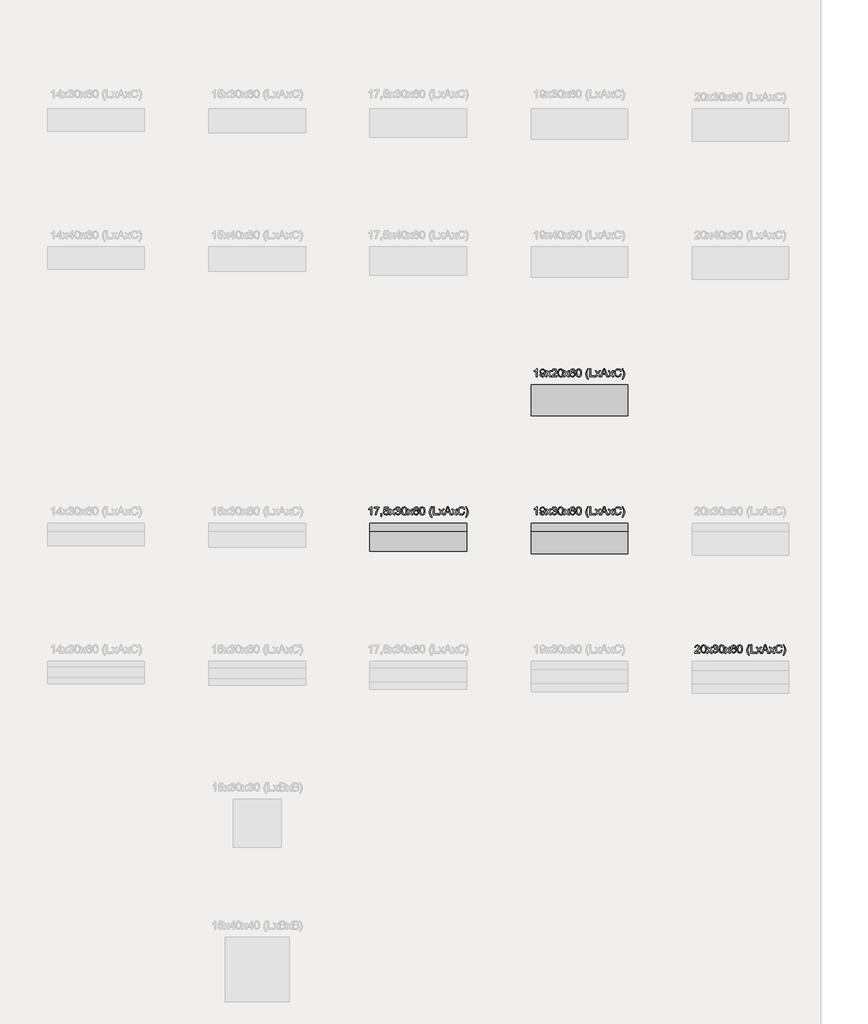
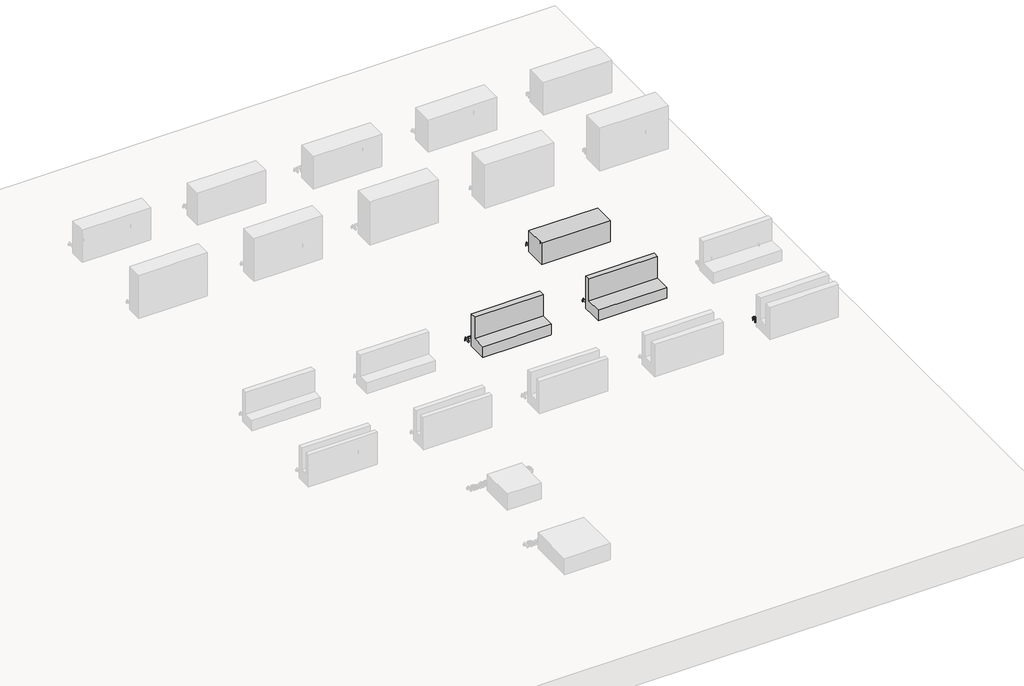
# One storey, part 10 of 26: 7 proxies.
"""IFC4 building model written with IfcOpenShell, lengths in millimetres."""

from ifc_helpers import new_model, si_unit, origin, origin_with_axes, place, context, project, spatial, polyline, outline, extrude, transform, mapped, element, save
from components import generic_models_8f744a5b, generic_models_ec5b52a0, generic_models_67e4d045

model = new_model("IFC4")

# Units and contexts
model_context = context("Model", 3, world=origin())
ifc_project = project(units=[si_unit("LENGTHUNIT", "METRE", prefix="MILLI")], contexts=[model_context])

# Site, building, storey
site = spatial("IfcSite", under=ifc_project)
building = spatial("IfcBuilding", under=site)
storey = spatial("IfcBuildingStorey", under=building, Name="Catálogo Celucon", Elevation=0.0)

# Proxies
placement = place(None, origin())
element("IfcBuildingElementProxy", 1, Name="Dimensões", ObjectType="Dimensões", at=placement, inside=storey, context=model_context, shape_type="SweptSolid", body=[
    extrude(outline(polyline([(-4758.0265226, -313.9617265), (-4764.305042, -313.9617265), (-4764.305042, -274.8190822), (-4770.2524676, -279.0558565), (-4776.8620808, -282.225773), (-4776.8620808, -276.2906101), (-4767.6588995, -270.416761), (-4762.0732246, -263.7335714), (-4758.0265226, -263.7335714), (-4758.0265226, -313.9617265)])), origin_with_axes(), (0.0, 0.0, 1.0), 20.0),
    extrude(outline(polyline([(-4742.3302242, -301.4046877), (-4736.0517048, -300.6198728), (-4733.2312761, -306.6102179), (-4727.8847245, -308.468022), (-4722.8018216, -307.2724055), (-4719.3559936, -304.0779635), (-4717.3019857, -298.6210473), (-4716.3945435, -291.3369838), (-4721.4529209, -294.8686509), (-4728.3384456, -296.6957981), (-4738.8292138, -292.2321633), (-4743.1150391, -280.4722022), (-4738.6207474, -268.3320963), (-4727.357427, -263.7335714), (-4718.4117631, -266.3577963), (-4712.255871, -273.8380635), (-4710.1528123, -287.8911557), (-4712.2497397, -303.1398644), (-4718.4853395, -311.77896), (-4728.1790301, -314.7465414), (-4737.8298011, -311.2455311), (-4742.3302242, -301.4046877)]), holes=[polyline([(-4716.4313317, -280.3250494), (-4719.1413957, -272.7957312), (-4726.3396201, -270.0120908), (-4733.8934637, -273.010329), (-4736.8365197, -280.7787705), (-4734.0528793, -287.7378716), (-4726.5112984, -290.4172788), (-4719.2701544, -287.7378716), (-4716.4313317, -280.3250494)])]), origin_with_axes(), (0.0, 0.0, 1.0), 20.0),
    extrude(outline(polyline([(-4707.0135526, -313.9617265), (-4693.5981225, -295.4204739), (-4706.2287377, -277.0754251), (-4698.6748941, -277.0754251), (-4692.5803157, -285.904593), (-4689.7353616, -290.0739222), (-4687.2705522, -286.6648824), (-4680.3298452, -277.0754251), (-4672.7760016, -277.0754251), (-4686.0442789, -295.4204739), (-4673.2665109, -313.9617265), (-4680.8203546, -313.9617265), (-4688.5090883, -302.814902), (-4689.9193026, -300.7792883), (-4699.459709, -313.9617265), (-4707.0135526, -313.9617265)])), origin_with_axes(), (0.0, 0.0, 1.0), 20.0),
    extrude(outline(polyline([(-4637.1650245, -307.6832071), (-4637.1650245, -313.9617265), (-4670.1272512, -313.9617265), (-4669.4528009, -309.6329816), (-4665.6390909, -302.9681862), (-4657.7786789, -295.690254), (-4646.9384228, -285.2301426), (-4644.2283588, -278.1177574), (-4646.7851386, -272.3604042), (-4653.4621969, -270.0120908), (-4660.4212979, -272.3052219), (-4663.0639169, -278.6450549), (-4669.3424363, -277.86024), (-4664.5293135, -267.3510777), (-4653.3273068, -263.7335714), (-4642.0885118, -267.7557479), (-4637.9498394, -277.7376127), (-4639.0657481, -283.6911696), (-4642.7752249, -289.8470617), (-4651.7699397, -298.449369), (-4658.9926895, -304.4887651), (-4661.8253809, -307.6832071), (-4637.1650245, -307.6832071)])), origin_with_axes(), (0.0, 0.0, 1.0), 20.0),
    extrude(outline(polyline([(-4630.8865051, -289.2523191), (-4629.0409637, -274.8006881), (-4623.559522, -266.4681609), (-4614.4053917, -263.7335714), (-4607.0722773, -265.3522522), (-4602.0077685, -270.0182221), (-4599.0647125, -277.4494384), (-4597.9242783, -289.2523191), (-4599.7514256, -303.6426365), (-4605.2144732, -311.9935578), (-4614.4053917, -314.7465414), (-4625.8833099, -309.9640754), (-4629.6357063, -301.469067), (-4630.8865051, -289.2523191)]), holes=[polyline([(-4624.6079857, -289.2400564), (-4621.6649297, -304.8321216), (-4614.4053917, -308.468022), (-4607.1458537, -304.8198589), (-4604.2027977, -289.2400564), (-4607.0477518, -273.8258008), (-4614.4789681, -270.0120908), (-4621.5668279, -273.3720797), (-4624.6079857, -289.2400564)])]), origin_with_axes(), (0.0, 0.0, 1.0), 20.0),
    extrude(outline(polyline([(-4594.7850186, -313.9617265), (-4581.3695885, -295.4204739), (-4594.0002037, -277.0754251), (-4586.4463601, -277.0754251), (-4580.3517817, -285.904593), (-4577.5068276, -290.0739222), (-4575.0420182, -286.6648824), (-4568.1013112, -277.0754251), (-4560.5474676, -277.0754251), (-4573.8157449, -295.4204739), (-4561.0379769, -313.9617265), (-4568.5918206, -313.9617265), (-4576.2805543, -302.814902), (-4577.6907686, -300.7792883), (-4587.231175, -313.9617265), (-4594.7850186, -313.9617265)])), origin_with_axes(), (0.0, 0.0, 1.0), 20.0),
    extrude(outline(polyline([(-4524.9364905, -277.0754251), (-4531.2150099, -277.86024), (-4533.5939801, -272.6240529), (-4539.8847622, -270.0120908), (-4545.5501449, -271.5326697), (-4549.8359702, -277.240972), (-4551.6201979, -288.430716), (-4546.0835738, -283.4213895), (-4539.2225746, -281.7843146), (-4528.5539968, -286.2602122), (-4524.1516755, -297.8239696), (-4526.2240775, -306.4875906), (-4531.9262484, -312.6189572), (-4540.1545423, -314.7465414), (-4552.9507044, -309.1056841), (-4556.661714, -301.6376796), (-4557.8987172, -290.5153806), (-4556.5252911, -278.0104585), (-4552.4050128, -269.4602678), (-4546.7794839, -265.1652455), (-4539.4923547, -263.7335714), (-4529.5718036, -267.2775013), (-4524.9364905, -277.0754251)]), holes=[polyline([(-4551.6201979, -297.7258677), (-4550.167064, -303.1643899), (-4546.304303, -307.11299), (-4540.6450517, -308.468022), (-4533.2444922, -305.6598561), (-4530.4301949, -298.0324361), (-4533.207704, -290.7299785), (-4540.9025691, -288.062834), (-4548.4993323, -290.7299785), (-4551.6201979, -297.7258677)])]), origin_with_axes(), (0.0, 0.0, 1.0), 20.0),
    extrude(outline(polyline([(-4518.6579711, -289.2523191), (-4516.8124297, -274.8006881), (-4511.330988, -266.4681609), (-4502.1768577, -263.7335714), (-4494.8437433, -265.3522522), (-4489.7792345, -270.0182221), (-4486.8361785, -277.4494384), (-4485.6957443, -289.2523191), (-4487.5228916, -303.6426365), (-4492.9859392, -311.9935578), (-4502.1768577, -314.7465414), (-4513.654776, -309.9640754), (-4517.4071723, -301.469067), (-4518.6579711, -289.2523191)]), holes=[polyline([(-4512.3794517, -289.2400564), (-4509.4363957, -304.8321216), (-4502.1768577, -308.468022), (-4494.9173197, -304.8198589), (-4491.9742637, -289.2400564), (-4494.8192178, -273.8258008), (-4502.2504341, -270.0120908), (-4509.3382939, -273.3720797), (-4512.3794517, -289.2400564)])]), origin_with_axes(), (0.0, 0.0, 1.0), 20.0),
    extrude(outline(polyline([(-4446.4549982, -328.0883951), (-4455.3700052, -313.3608525), (-4459.0120369, -295.874195), (-4456.2897102, -280.6070922), (-4446.4549982, -263.7335714), (-4441.7461086, -263.7335714), (-4447.6199578, -273.678648), (-4451.151625, -283.3171563), (-4452.7335176, -295.9109832), (-4449.9866653, -312.0058205), (-4441.7461086, -328.0883951), (-4446.4549982, -328.0883951)])), origin_with_axes(), (0.0, 0.0, 1.0), 20.0),
    extrude(outline(polyline([(-4434.6827743, -313.9617265), (-4434.6827743, -263.7335714), (-4428.4042549, -263.7335714), (-4428.4042549, -307.6832071), (-4403.2901774, -307.6832071), (-4403.2901774, -313.9617265), (-4434.6827743, -313.9617265)])), origin_with_axes(), (0.0, 0.0, 1.0), 20.0),
    extrude(outline(polyline([(-4366.7594953, -313.9617265), (-4346.7099265, -263.7335714), (-4341.3633749, -263.7335714), (-4321.3138061, -313.9617265), (-4327.9479448, -313.9617265), (-4333.6991666, -298.265428), (-4354.3863975, -298.265428), (-4360.1253566, -313.9617265), (-4366.7594953, -313.9617265)]), holes=[polyline([(-4352.0810037, -291.9869086), (-4335.9922977, -291.9869086), (-4340.5172463, -279.6383363), (-4344.0366507, -270.0120908), (-4347.1636477, -278.5592158), (-4352.0810037, -291.9869086)])]), origin_with_axes(), (0.0, 0.0, 1.0), 20.0),
    extrude(outline(polyline([(-4400.9357326, -313.9617265), (-4387.5203025, -295.4204739), (-4400.1509177, -277.0754251), (-4392.5970741, -277.0754251), (-4386.5024957, -285.904593), (-4383.6575416, -290.0739222), (-4381.1927322, -286.6648824), (-4374.2520252, -277.0754251), (-4366.6981816, -277.0754251), (-4379.9664589, -295.4204739), (-4367.1886909, -313.9617265), (-4374.7425346, -313.9617265), (-4382.4312683, -302.814902), (-4383.8414826, -300.7792883), (-4393.381889, -313.9617265), (-4400.9357326, -313.9617265)])), origin_with_axes(), (0.0, 0.0, 1.0), 20.0),
    extrude(outline(polyline([(-4319.3149806, -313.9617265), (-4305.8995505, -295.4204739), (-4318.5301657, -277.0754251), (-4310.9763221, -277.0754251), (-4304.8817437, -285.904593), (-4302.0367896, -290.0739222), (-4299.5719802, -286.6648824), (-4292.6312733, -277.0754251), (-4285.0774296, -277.0754251), (-4298.3457069, -295.4204739), (-4285.5679389, -313.9617265), (-4293.1217826, -313.9617265), (-4300.8105163, -302.814902), (-4302.2207306, -300.7792883), (-4311.761137, -313.9617265), (-4319.3149806, -313.9617265)])), origin_with_axes(), (0.0, 0.0, 1.0), 20.0),
    extrude(outline(polyline([(-4243.972748, -296.107187), (-4237.6942286, -297.7258677), (-4245.1377077, -310.3871397), (-4258.2833576, -314.7465414), (-4271.3492998, -311.4478662), (-4279.0135081, -301.895197), (-4281.6438643, -288.4675042), (-4278.6701515, -274.8190822), (-4270.214997, -265.9715202), (-4258.1484676, -262.9487565), (-4245.5730347, -266.8605683), (-4238.4790436, -277.8725027), (-4244.7575629, -279.3685562), (-4249.9079109, -271.6491656), (-4258.3937222, -269.2272758), (-4268.2161715, -271.9128144), (-4273.7650583, -279.1233015), (-4275.3653449, -288.4552415), (-4273.4707527, -299.2709721), (-4267.572378, -306.1810223), (-4258.908757, -308.468022), (-4249.3009056, -305.3532878), (-4243.972748, -296.107187)])), origin_with_axes(), (0.0, 0.0, 1.0), 20.0),
    extrude(outline(polyline([(-4228.2764496, -328.0883951), (-4232.9853391, -328.0883951), (-4224.7447824, -312.0058205), (-4221.9979302, -295.9109832), (-4223.5798228, -283.4275209), (-4227.0747017, -273.7767498), (-4232.9853391, -263.7335714), (-4228.2764496, -263.7335714), (-4218.4417376, -280.6070922), (-4215.7194108, -295.874195), (-4219.3798366, -313.3608525), (-4228.2764496, -328.0883951)])), origin_with_axes(), (0.0, 0.0, 1.0), 20.0),
])
element("IfcBuildingElementProxy", 2, Name="Dimensões", ObjectType="Dimensões", at=placement, inside=storey, context=model_context, shape_type="SweptSolid", body=[
    extrude(outline(polyline([(-5787.0646748, -1171.1045836), (-5793.3431942, -1171.1045836), (-5793.3431942, -1131.9619393), (-5799.2906197, -1136.1987136), (-5805.9002329, -1139.3686301), (-5805.9002329, -1133.4334673), (-5796.6970517, -1127.5596181), (-5791.1113767, -1120.8764285), (-5787.0646748, -1120.8764285), (-5787.0646748, -1171.1045836)])), origin_with_axes(), (0.0, 0.0, 1.0), 20.0),
    extrude(outline(polyline([(-5772.1531912, -1127.9397628), (-5772.1531912, -1121.6612434), (-5739.1909645, -1121.6612434), (-5739.1909645, -1126.738015), (-5748.5412985, -1140.2454156), (-5755.6966033, -1157.4561616), (-5758.0265226, -1171.1045836), (-5764.305042, -1171.1045836), (-5761.8095758, -1156.9411268), (-5754.9608393, -1140.9321286), (-5745.4694838, -1127.9397628), (-5772.1531912, -1127.9397628)])), origin_with_axes(), (0.0, 0.0, 1.0), 20.0),
    extrude(outline(polyline([(-5730.5580003, -1171.1045836), (-5730.5580003, -1164.8260642), (-5724.2794809, -1164.8260642), (-5724.2794809, -1171.1045836), (-5725.4076524, -1177.5241244), (-5728.9883705, -1181.3071776), (-5730.5580003, -1178.9527328), (-5728.2526065, -1176.2426688), (-5727.4310034, -1171.1045836), (-5730.5580003, -1171.1045836)])), origin_with_axes(), (0.0, 0.0, 1.0), 20.0),
    extrude(outline(polyline([(-5714.0768869, -1157.7627299), (-5707.7983675, -1156.977915), (-5704.6345824, -1163.4465067), (-5698.0740201, -1165.6108791), (-5690.2013454, -1162.6003781), (-5687.3931795, -1154.6112075), (-5690.0235358, -1147.1554657), (-5697.9759183, -1144.4208762), (-5703.4880168, -1145.5122595), (-5707.0135526, -1148.3449508), (-5713.292072, -1147.5601359), (-5707.7983675, -1121.6612434), (-5683.4691049, -1121.6612434), (-5683.4691049, -1127.9397628), (-5702.721596, -1127.9397628), (-5705.4071346, -1141.7721258), (-5696.2223474, -1138.1423568), (-5685.4863245, -1142.6427799), (-5681.1146602, -1154.2188), (-5685.0509975, -1165.8683965), (-5690.7041175, -1170.384148), (-5698.0985456, -1171.8893985), (-5709.177925, -1168.0205062), (-5714.0768869, -1157.7627299)])), origin_with_axes(), (0.0, 0.0, 1.0), 20.0),
    extrude(outline(polyline([(-5677.9754005, -1171.1045836), (-5664.5599704, -1152.563331), (-5677.1905855, -1134.2182822), (-5669.6367419, -1134.2182822), (-5663.5421635, -1143.0474501), (-5660.6972094, -1147.2167794), (-5658.2324001, -1143.8077396), (-5651.2916931, -1134.2182822), (-5643.7378494, -1134.2182822), (-5657.0061267, -1152.563331), (-5644.2283588, -1171.1045836), (-5651.7822024, -1171.1045836), (-5659.4709361, -1159.9577591), (-5660.8811504, -1157.9221454), (-5670.4215568, -1171.1045836), (-5677.9754005, -1171.1045836)])), origin_with_axes(), (0.0, 0.0, 1.0), 20.0),
    extrude(outline(polyline([(-5640.3042842, -1157.7627299), (-5634.0257648, -1156.977915), (-5630.5615427, -1163.5875282), (-5624.0806882, -1165.6108791), (-5616.4532681, -1162.8272387), (-5613.6205768, -1155.9355827), (-5616.4287427, -1149.4424654), (-5623.5656534, -1146.8734228), (-5627.9679746, -1147.5601359), (-5627.2689988, -1141.2816165), (-5619.1388067, -1139.5525711), (-5615.9750215, -1134.0098158), (-5618.2681526, -1129.0985911), (-5624.17879, -1127.1549479), (-5630.1630038, -1129.1169852), (-5633.2409499, -1135.0030971), (-5639.5194692, -1134.2182822), (-5634.381384, -1124.3713075), (-5624.3995192, -1120.8764285), (-5616.8272815, -1122.5993425), (-5611.5297808, -1127.3082321), (-5609.6965022, -1133.6419338), (-5611.4378103, -1139.4299438), (-5616.5881582, -1143.5870104), (-5609.7455531, -1147.878967), (-5607.3420574, -1156.0459473), (-5612.1490488, -1167.2786108), (-5624.3014174, -1171.8893985), (-5635.3133518, -1167.9530612), (-5640.3042842, -1157.7627299)])), origin_with_axes(), (0.0, 0.0, 1.0), 20.0),
    extrude(outline(polyline([(-5601.8483529, -1146.3951763), (-5600.0028116, -1131.9435452), (-5594.5213699, -1123.611018), (-5585.3672395, -1120.8764285), (-5578.0341251, -1122.4951093), (-5572.9696163, -1127.1610793), (-5570.0265603, -1134.5922956), (-5568.8861262, -1146.3951763), (-5570.7132734, -1160.7854936), (-5576.176321, -1169.1364149), (-5585.3672395, -1171.8893985), (-5596.8451578, -1167.1069326), (-5600.5975541, -1158.6119242), (-5601.8483529, -1146.3951763)]), holes=[polyline([(-5595.5698335, -1146.3829135), (-5592.6267776, -1161.9749788), (-5585.3672395, -1165.6108791), (-5578.1077015, -1161.962716), (-5575.1646455, -1146.3829135), (-5578.0095996, -1130.9686579), (-5585.4408159, -1127.1549479), (-5592.5286757, -1130.5149368), (-5595.5698335, -1146.3829135)])]), origin_with_axes(), (0.0, 0.0, 1.0), 20.0),
    extrude(outline(polyline([(-5565.7468665, -1171.1045836), (-5552.3314364, -1152.563331), (-5564.9620515, -1134.2182822), (-5557.4082079, -1134.2182822), (-5551.3136295, -1143.0474501), (-5548.4686754, -1147.2167794), (-5546.0038661, -1143.8077396), (-5539.0631591, -1134.2182822), (-5531.5093155, -1134.2182822), (-5544.7775927, -1152.563331), (-5531.9998248, -1171.1045836), (-5539.5536684, -1171.1045836), (-5547.2424021, -1159.9577591), (-5548.6526164, -1157.9221454), (-5558.1930228, -1171.1045836), (-5565.7468665, -1171.1045836)])), origin_with_axes(), (0.0, 0.0, 1.0), 20.0),
    extrude(outline(polyline([(-5495.8983383, -1134.2182822), (-5502.1768577, -1135.0030971), (-5504.5558279, -1129.7669101), (-5510.8466101, -1127.1549479), (-5516.5119928, -1128.6755268), (-5520.797818, -1134.3838291), (-5522.5820457, -1145.5735731), (-5517.0454217, -1140.5642466), (-5510.1844225, -1138.9271718), (-5499.5158446, -1143.4030694), (-5495.1135234, -1154.9668267), (-5497.1859253, -1163.6304477), (-5502.8880962, -1169.7618143), (-5511.1163902, -1171.8893985), (-5523.9125523, -1166.2485413), (-5527.6235619, -1158.7805368), (-5528.8605651, -1147.6582378), (-5527.487139, -1135.1533156), (-5523.3668606, -1126.6031249), (-5517.7413318, -1122.3081026), (-5510.4542026, -1120.8764285), (-5500.5336515, -1124.4203584), (-5495.8983383, -1134.2182822)]), holes=[polyline([(-5522.5820457, -1154.8687249), (-5521.1289118, -1160.307247), (-5517.2661509, -1164.2558471), (-5511.6068995, -1165.6108791), (-5504.20634, -1162.8027132), (-5501.3920428, -1155.1752932), (-5504.1695518, -1147.8728356), (-5511.8644169, -1145.2056911), (-5519.4611801, -1147.8728356), (-5522.5820457, -1154.8687249)])]), origin_with_axes(), (0.0, 0.0, 1.0), 20.0),
    extrude(outline(polyline([(-5489.6198189, -1146.3951763), (-5487.7742776, -1131.9435452), (-5482.2928359, -1123.611018), (-5473.1387056, -1120.8764285), (-5465.8055911, -1122.4951093), (-5460.7410823, -1127.1610793), (-5457.7980264, -1134.5922956), (-5456.6575922, -1146.3951763), (-5458.4847394, -1160.7854936), (-5463.947787, -1169.1364149), (-5473.1387056, -1171.8893985), (-5484.6166238, -1167.1069326), (-5488.3690202, -1158.6119242), (-5489.6198189, -1146.3951763)]), holes=[polyline([(-5483.3412996, -1146.3829135), (-5480.3982436, -1161.9749788), (-5473.1387056, -1165.6108791), (-5465.8791675, -1161.962716), (-5462.9361116, -1146.3829135), (-5465.7810656, -1130.9686579), (-5473.212282, -1127.1549479), (-5480.3001417, -1130.5149368), (-5483.3412996, -1146.3829135)])]), origin_with_axes(), (0.0, 0.0, 1.0), 20.0),
    extrude(outline(polyline([(-5417.416846, -1185.2312522), (-5426.331853, -1170.5037097), (-5429.9738848, -1153.0170522), (-5427.251558, -1137.7499494), (-5417.416846, -1120.8764285), (-5412.7079565, -1120.8764285), (-5418.5818057, -1130.8215051), (-5422.1134728, -1140.4600134), (-5423.6953654, -1153.0538404), (-5420.9485132, -1169.1486777), (-5412.7079565, -1185.2312522), (-5417.416846, -1185.2312522)])), origin_with_axes(), (0.0, 0.0, 1.0), 20.0),
    extrude(outline(polyline([(-5405.6446222, -1171.1045836), (-5405.6446222, -1120.8764285), (-5399.3661028, -1120.8764285), (-5399.3661028, -1164.8260642), (-5374.2520252, -1164.8260642), (-5374.2520252, -1171.1045836), (-5405.6446222, -1171.1045836)])), origin_with_axes(), (0.0, 0.0, 1.0), 20.0),
    extrude(outline(polyline([(-5337.7213431, -1171.1045836), (-5317.6717744, -1120.8764285), (-5312.3252227, -1120.8764285), (-5292.275654, -1171.1045836), (-5298.9097926, -1171.1045836), (-5304.6610145, -1155.4082851), (-5325.3482454, -1155.4082851), (-5331.0872045, -1171.1045836), (-5337.7213431, -1171.1045836)]), holes=[polyline([(-5323.0428515, -1149.1297658), (-5306.9541456, -1149.1297658), (-5311.4790941, -1136.7811934), (-5314.9984986, -1127.1549479), (-5318.1254955, -1135.7020729), (-5323.0428515, -1149.1297658)])]), origin_with_axes(), (0.0, 0.0, 1.0), 20.0),
    extrude(outline(polyline([(-5371.8975805, -1171.1045836), (-5358.4821504, -1152.563331), (-5371.1127656, -1134.2182822), (-5363.5589219, -1134.2182822), (-5357.4643435, -1143.0474501), (-5354.6193894, -1147.2167794), (-5352.1545801, -1143.8077396), (-5345.2138731, -1134.2182822), (-5337.6600295, -1134.2182822), (-5350.9283068, -1152.563331), (-5338.1505388, -1171.1045836), (-5345.7043824, -1171.1045836), (-5353.3931161, -1159.9577591), (-5354.8033304, -1157.9221454), (-5364.3437368, -1171.1045836), (-5371.8975805, -1171.1045836)])), origin_with_axes(), (0.0, 0.0, 1.0), 20.0),
    extrude(outline(polyline([(-5290.2768285, -1171.1045836), (-5276.8613984, -1152.563331), (-5289.4920136, -1134.2182822), (-5281.9381699, -1134.2182822), (-5275.8435915, -1143.0474501), (-5272.9986374, -1147.2167794), (-5270.5338281, -1143.8077396), (-5263.5931211, -1134.2182822), (-5256.0392775, -1134.2182822), (-5269.3075548, -1152.563331), (-5256.5297868, -1171.1045836), (-5264.0836304, -1171.1045836), (-5271.7723641, -1159.9577591), (-5273.1825784, -1157.9221454), (-5282.7229848, -1171.1045836), (-5290.2768285, -1171.1045836)])), origin_with_axes(), (0.0, 0.0, 1.0), 20.0),
    extrude(outline(polyline([(-5214.9345959, -1153.2500441), (-5208.6560765, -1154.8687249), (-5216.0995555, -1167.5299969), (-5229.2452055, -1171.8893985), (-5242.3111477, -1168.5907233), (-5249.9753559, -1159.0380542), (-5252.6057122, -1145.6103613), (-5249.6319994, -1131.9619393), (-5241.1768449, -1123.1143773), (-5229.1103154, -1120.0916136), (-5216.5348825, -1124.0034255), (-5209.4408914, -1135.0153599), (-5215.7194108, -1136.5114133), (-5220.8697587, -1128.7920228), (-5229.3555701, -1126.370133), (-5239.1780194, -1129.0556715), (-5244.7269061, -1136.2661587), (-5246.3271928, -1145.5980986), (-5244.4326005, -1156.4138293), (-5238.5342259, -1163.3238794), (-5229.8706049, -1165.6108791), (-5220.2627534, -1162.4961449), (-5214.9345959, -1153.2500441)])), origin_with_axes(), (0.0, 0.0, 1.0), 20.0),
    extrude(outline(polyline([(-5199.2382974, -1185.2312522), (-5203.9471869, -1185.2312522), (-5195.7066303, -1169.1486777), (-5192.959778, -1153.0538404), (-5194.5416706, -1140.570378), (-5198.0365496, -1130.919607), (-5203.9471869, -1120.8764285), (-5199.2382974, -1120.8764285), (-5189.4035854, -1137.7499494), (-5186.6812586, -1153.0170522), (-5190.3416845, -1170.5037097), (-5199.2382974, -1185.2312522)])), origin_with_axes(), (0.0, 0.0, 1.0), 20.0),
])
element("IfcBuildingElementProxy", 3, Name="Dimensões", ObjectType="Dimensões", at=placement, inside=storey, context=model_context, shape_type="SweptSolid", body=[
    extrude(outline(polyline([(-4758.0265226, -1171.1045836), (-4764.305042, -1171.1045836), (-4764.305042, -1131.9619393), (-4770.2524676, -1136.1987136), (-4776.8620808, -1139.3686301), (-4776.8620808, -1133.4334673), (-4767.6588995, -1127.5596181), (-4762.0732246, -1120.8764285), (-4758.0265226, -1120.8764285), (-4758.0265226, -1171.1045836)])), origin_with_axes(), (0.0, 0.0, 1.0), 20.0),
    extrude(outline(polyline([(-4742.3302242, -1158.5475448), (-4736.0517048, -1157.7627299), (-4733.2312761, -1163.7530751), (-4727.8847245, -1165.6108791), (-4722.8018216, -1164.4152627), (-4719.3559936, -1161.2208207), (-4717.3019857, -1155.7639044), (-4716.3945435, -1148.4798409), (-4721.4529209, -1152.011508), (-4728.3384456, -1153.8386553), (-4738.8292138, -1149.3750204), (-4743.1150391, -1137.6150593), (-4738.6207474, -1125.4749535), (-4727.357427, -1120.8764285), (-4718.4117631, -1123.5006534), (-4712.255871, -1130.9809207), (-4710.1528123, -1145.0340129), (-4712.2497397, -1160.2827216), (-4718.4853395, -1168.9218171), (-4728.1790301, -1171.8893985), (-4737.8298011, -1168.3883882), (-4742.3302242, -1158.5475448)]), holes=[polyline([(-4716.4313317, -1137.4679065), (-4719.1413957, -1129.9385883), (-4726.3396201, -1127.1549479), (-4733.8934637, -1130.1531862), (-4736.8365197, -1137.9216276), (-4734.0528793, -1144.8807287), (-4726.5112984, -1147.5601359), (-4719.2701544, -1144.8807287), (-4716.4313317, -1137.4679065)])]), origin_with_axes(), (0.0, 0.0, 1.0), 20.0),
    extrude(outline(polyline([(-4707.0135526, -1171.1045836), (-4693.5981225, -1152.563331), (-4706.2287377, -1134.2182822), (-4698.6748941, -1134.2182822), (-4692.5803157, -1143.0474501), (-4689.7353616, -1147.2167794), (-4687.2705522, -1143.8077396), (-4680.3298452, -1134.2182822), (-4672.7760016, -1134.2182822), (-4686.0442789, -1152.563331), (-4673.2665109, -1171.1045836), (-4680.8203546, -1171.1045836), (-4688.5090883, -1159.9577591), (-4689.9193026, -1157.9221454), (-4699.459709, -1171.1045836), (-4707.0135526, -1171.1045836)])), origin_with_axes(), (0.0, 0.0, 1.0), 20.0),
    extrude(outline(polyline([(-4669.3424363, -1157.7627299), (-4663.0639169, -1156.977915), (-4659.5996948, -1163.5875282), (-4653.1188403, -1165.6108791), (-4645.4914203, -1162.8272387), (-4642.6587289, -1155.9355827), (-4645.4668948, -1149.4424654), (-4652.6038055, -1146.8734228), (-4657.0061267, -1147.5601359), (-4656.3071509, -1141.2816165), (-4648.1769589, -1139.5525711), (-4645.0131737, -1134.0098158), (-4647.3063048, -1129.0985911), (-4653.2169422, -1127.1549479), (-4659.201156, -1129.1169852), (-4662.279102, -1135.0030971), (-4668.5576214, -1134.2182822), (-4663.4195362, -1124.3713075), (-4653.4376714, -1120.8764285), (-4645.8654337, -1122.5993425), (-4640.5679329, -1127.3082321), (-4638.7346543, -1133.6419338), (-4640.4759624, -1139.4299438), (-4645.6263104, -1143.5870104), (-4638.7837052, -1147.878967), (-4636.3802095, -1156.0459473), (-4641.1872009, -1167.2786108), (-4653.3395695, -1171.8893985), (-4664.3515039, -1167.9530612), (-4669.3424363, -1157.7627299)])), origin_with_axes(), (0.0, 0.0, 1.0), 20.0),
    extrude(outline(polyline([(-4630.8865051, -1146.3951763), (-4629.0409637, -1131.9435452), (-4623.559522, -1123.611018), (-4614.4053917, -1120.8764285), (-4607.0722773, -1122.4951093), (-4602.0077685, -1127.1610793), (-4599.0647125, -1134.5922956), (-4597.9242783, -1146.3951763), (-4599.7514256, -1160.7854936), (-4605.2144732, -1169.1364149), (-4614.4053917, -1171.8893985), (-4625.8833099, -1167.1069326), (-4629.6357063, -1158.6119242), (-4630.8865051, -1146.3951763)]), holes=[polyline([(-4624.6079857, -1146.3829135), (-4621.6649297, -1161.9749788), (-4614.4053917, -1165.6108791), (-4607.1458537, -1161.962716), (-4604.2027977, -1146.3829135), (-4607.0477518, -1130.9686579), (-4614.4789681, -1127.1549479), (-4621.5668279, -1130.5149368), (-4624.6079857, -1146.3829135)])]), origin_with_axes(), (0.0, 0.0, 1.0), 20.0),
    extrude(outline(polyline([(-4594.7850186, -1171.1045836), (-4581.3695885, -1152.563331), (-4594.0002037, -1134.2182822), (-4586.4463601, -1134.2182822), (-4580.3517817, -1143.0474501), (-4577.5068276, -1147.2167794), (-4575.0420182, -1143.8077396), (-4568.1013112, -1134.2182822), (-4560.5474676, -1134.2182822), (-4573.8157449, -1152.563331), (-4561.0379769, -1171.1045836), (-4568.5918206, -1171.1045836), (-4576.2805543, -1159.9577591), (-4577.6907686, -1157.9221454), (-4587.231175, -1171.1045836), (-4594.7850186, -1171.1045836)])), origin_with_axes(), (0.0, 0.0, 1.0), 20.0),
    extrude(outline(polyline([(-4524.9364905, -1134.2182822), (-4531.2150099, -1135.0030971), (-4533.5939801, -1129.7669101), (-4539.8847622, -1127.1549479), (-4545.5501449, -1128.6755268), (-4549.8359702, -1134.3838291), (-4551.6201979, -1145.5735731), (-4546.0835738, -1140.5642466), (-4539.2225746, -1138.9271718), (-4528.5539968, -1143.4030694), (-4524.1516755, -1154.9668267), (-4526.2240775, -1163.6304477), (-4531.9262484, -1169.7618143), (-4540.1545423, -1171.8893985), (-4552.9507044, -1166.2485413), (-4556.661714, -1158.7805368), (-4557.8987172, -1147.6582378), (-4556.5252911, -1135.1533156), (-4552.4050128, -1126.6031249), (-4546.7794839, -1122.3081026), (-4539.4923547, -1120.8764285), (-4529.5718036, -1124.4203584), (-4524.9364905, -1134.2182822)]), holes=[polyline([(-4551.6201979, -1154.8687249), (-4550.167064, -1160.307247), (-4546.304303, -1164.2558471), (-4540.6450517, -1165.6108791), (-4533.2444922, -1162.8027132), (-4530.4301949, -1155.1752932), (-4533.207704, -1147.8728356), (-4540.9025691, -1145.2056911), (-4548.4993323, -1147.8728356), (-4551.6201979, -1154.8687249)])]), origin_with_axes(), (0.0, 0.0, 1.0), 20.0),
    extrude(outline(polyline([(-4518.6579711, -1146.3951763), (-4516.8124297, -1131.9435452), (-4511.330988, -1123.611018), (-4502.1768577, -1120.8764285), (-4494.8437433, -1122.4951093), (-4489.7792345, -1127.1610793), (-4486.8361785, -1134.5922956), (-4485.6957443, -1146.3951763), (-4487.5228916, -1160.7854936), (-4492.9859392, -1169.1364149), (-4502.1768577, -1171.8893985), (-4513.654776, -1167.1069326), (-4517.4071723, -1158.6119242), (-4518.6579711, -1146.3951763)]), holes=[polyline([(-4512.3794517, -1146.3829135), (-4509.4363957, -1161.9749788), (-4502.1768577, -1165.6108791), (-4494.9173197, -1161.962716), (-4491.9742637, -1146.3829135), (-4494.8192178, -1130.9686579), (-4502.2504341, -1127.1549479), (-4509.3382939, -1130.5149368), (-4512.3794517, -1146.3829135)])]), origin_with_axes(), (0.0, 0.0, 1.0), 20.0),
    extrude(outline(polyline([(-4446.4549982, -1185.2312522), (-4455.3700052, -1170.5037097), (-4459.0120369, -1153.0170522), (-4456.2897102, -1137.7499494), (-4446.4549982, -1120.8764285), (-4441.7461086, -1120.8764285), (-4447.6199578, -1130.8215051), (-4451.151625, -1140.4600134), (-4452.7335176, -1153.0538404), (-4449.9866653, -1169.1486777), (-4441.7461086, -1185.2312522), (-4446.4549982, -1185.2312522)])), origin_with_axes(), (0.0, 0.0, 1.0), 20.0),
    extrude(outline(polyline([(-4434.6827743, -1171.1045836), (-4434.6827743, -1120.8764285), (-4428.4042549, -1120.8764285), (-4428.4042549, -1164.8260642), (-4403.2901774, -1164.8260642), (-4403.2901774, -1171.1045836), (-4434.6827743, -1171.1045836)])), origin_with_axes(), (0.0, 0.0, 1.0), 20.0),
    extrude(outline(polyline([(-4366.7594953, -1171.1045836), (-4346.7099265, -1120.8764285), (-4341.3633749, -1120.8764285), (-4321.3138061, -1171.1045836), (-4327.9479448, -1171.1045836), (-4333.6991666, -1155.4082851), (-4354.3863975, -1155.4082851), (-4360.1253566, -1171.1045836), (-4366.7594953, -1171.1045836)]), holes=[polyline([(-4352.0810037, -1149.1297658), (-4335.9922977, -1149.1297658), (-4340.5172463, -1136.7811934), (-4344.0366507, -1127.1549479), (-4347.1636477, -1135.7020729), (-4352.0810037, -1149.1297658)])]), origin_with_axes(), (0.0, 0.0, 1.0), 20.0),
    extrude(outline(polyline([(-4400.9357326, -1171.1045836), (-4387.5203025, -1152.563331), (-4400.1509177, -1134.2182822), (-4392.5970741, -1134.2182822), (-4386.5024957, -1143.0474501), (-4383.6575416, -1147.2167794), (-4381.1927322, -1143.8077396), (-4374.2520252, -1134.2182822), (-4366.6981816, -1134.2182822), (-4379.9664589, -1152.563331), (-4367.1886909, -1171.1045836), (-4374.7425346, -1171.1045836), (-4382.4312683, -1159.9577591), (-4383.8414826, -1157.9221454), (-4393.381889, -1171.1045836), (-4400.9357326, -1171.1045836)])), origin_with_axes(), (0.0, 0.0, 1.0), 20.0),
    extrude(outline(polyline([(-4319.3149806, -1171.1045836), (-4305.8995505, -1152.563331), (-4318.5301657, -1134.2182822), (-4310.9763221, -1134.2182822), (-4304.8817437, -1143.0474501), (-4302.0367896, -1147.2167794), (-4299.5719802, -1143.8077396), (-4292.6312733, -1134.2182822), (-4285.0774296, -1134.2182822), (-4298.3457069, -1152.563331), (-4285.5679389, -1171.1045836), (-4293.1217826, -1171.1045836), (-4300.8105163, -1159.9577591), (-4302.2207306, -1157.9221454), (-4311.761137, -1171.1045836), (-4319.3149806, -1171.1045836)])), origin_with_axes(), (0.0, 0.0, 1.0), 20.0),
    extrude(outline(polyline([(-4243.972748, -1153.2500441), (-4237.6942286, -1154.8687249), (-4245.1377077, -1167.5299969), (-4258.2833576, -1171.8893985), (-4271.3492998, -1168.5907233), (-4279.0135081, -1159.0380542), (-4281.6438643, -1145.6103613), (-4278.6701515, -1131.9619393), (-4270.214997, -1123.1143773), (-4258.1484676, -1120.0916136), (-4245.5730347, -1124.0034255), (-4238.4790436, -1135.0153599), (-4244.7575629, -1136.5114133), (-4249.9079109, -1128.7920228), (-4258.3937222, -1126.370133), (-4268.2161715, -1129.0556715), (-4273.7650583, -1136.2661587), (-4275.3653449, -1145.5980986), (-4273.4707527, -1156.4138293), (-4267.572378, -1163.3238794), (-4258.908757, -1165.6108791), (-4249.3009056, -1162.4961449), (-4243.972748, -1153.2500441)])), origin_with_axes(), (0.0, 0.0, 1.0), 20.0),
    extrude(outline(polyline([(-4228.2764496, -1185.2312522), (-4232.9853391, -1185.2312522), (-4224.7447824, -1169.1486777), (-4221.9979302, -1153.0538404), (-4223.5798228, -1140.570378), (-4227.0747017, -1130.919607), (-4232.9853391, -1120.8764285), (-4228.2764496, -1120.8764285), (-4218.4417376, -1137.7499494), (-4215.7194108, -1153.0170522), (-4219.3798366, -1170.5037097), (-4228.2764496, -1185.2312522)])), origin_with_axes(), (0.0, 0.0, 1.0), 20.0),
])
element("IfcBuildingElementProxy", 4, Name="Dimensões", ObjectType="Dimensões", at=placement, inside=storey, context=model_context, shape_type="SweptSolid", body=[
    extrude(outline(polyline([(-3749.3935585, -2021.9689214), (-3749.3935585, -2028.2474407), (-3782.3557852, -2028.2474407), (-3781.6813349, -2023.9186959), (-3777.8676249, -2017.2539005), (-3770.0072129, -2009.9759683), (-3759.1669568, -1999.5158569), (-3756.4568928, -1992.4034717), (-3759.0136726, -1986.6461185), (-3765.6907308, -1984.2978051), (-3772.6498319, -1986.5909362), (-3775.2924509, -1992.9307692), (-3781.5709703, -1992.1459543), (-3776.7578475, -1981.636792), (-3765.5558408, -1978.0192857), (-3754.3170458, -1982.0414621), (-3750.1783734, -1992.0233269), (-3751.2942821, -1997.9768839), (-3755.0037589, -2004.132776), (-3763.9984737, -2012.7350833), (-3771.2212235, -2018.7744794), (-3774.0539149, -2021.9689214), (-3749.3935585, -2021.9689214)])), origin_with_axes(), (0.0, 0.0, 1.0), 20.0),
    extrude(outline(polyline([(-3743.1150391, -2003.5380334), (-3741.2694977, -1989.0864024), (-3735.788056, -1980.7538752), (-3726.6339257, -1978.0192857), (-3719.3008113, -1979.6379664), (-3714.2363025, -1984.3039364), (-3711.2932465, -1991.7351527), (-3710.1528123, -2003.5380334), (-3711.9799596, -2017.9283508), (-3717.4430072, -2026.2792721), (-3726.6339257, -2029.0322557), (-3738.1118439, -2024.2497897), (-3741.8642403, -2015.7547813), (-3743.1150391, -2003.5380334)]), holes=[polyline([(-3736.8365197, -2003.5257707), (-3733.8934637, -2019.1178359), (-3726.6339257, -2022.7537363), (-3719.3743877, -2019.1055732), (-3716.4313317, -2003.5257707), (-3719.2762858, -1988.1115151), (-3726.7075021, -1984.2978051), (-3733.7953619, -1987.6577939), (-3736.8365197, -2003.5257707)])]), origin_with_axes(), (0.0, 0.0, 1.0), 20.0),
    extrude(outline(polyline([(-3707.0135526, -2028.2474407), (-3693.5981225, -2009.7061882), (-3706.2287377, -1991.3611394), (-3698.6748941, -1991.3611394), (-3692.5803157, -2000.1903072), (-3689.7353616, -2004.3596365), (-3687.2705522, -2000.9505967), (-3680.3298452, -1991.3611394), (-3672.7760016, -1991.3611394), (-3686.0442789, -2009.7061882), (-3673.2665109, -2028.2474407), (-3680.8203546, -2028.2474407), (-3688.5090883, -2017.1006163), (-3689.9193026, -2015.0650026), (-3699.459709, -2028.2474407), (-3707.0135526, -2028.2474407)])), origin_with_axes(), (0.0, 0.0, 1.0), 20.0),
    extrude(outline(polyline([(-3669.3424363, -2014.905587), (-3663.0639169, -2014.1207721), (-3659.5996948, -2020.7303853), (-3653.1188403, -2022.7537363), (-3645.4914203, -2019.9700958), (-3642.6587289, -2013.0784398), (-3645.4668948, -2006.5853226), (-3652.6038055, -2004.01628), (-3657.0061267, -2004.7029931), (-3656.3071509, -1998.4244737), (-3648.1769589, -1996.6954283), (-3645.0131737, -1991.1526729), (-3647.3063048, -1986.2414483), (-3653.2169422, -1984.2978051), (-3659.201156, -1986.2598424), (-3662.279102, -1992.1459543), (-3668.5576214, -1991.3611394), (-3663.4195362, -1981.5141646), (-3653.4376714, -1978.0192857), (-3645.8654337, -1979.7421997), (-3640.5679329, -1984.4510892), (-3638.7346543, -1990.7847909), (-3640.4759624, -1996.572801), (-3645.6263104, -2000.7298675), (-3638.7837052, -2005.0218241), (-3636.3802095, -2013.1888044), (-3641.1872009, -2024.421468), (-3653.3395695, -2029.0322557), (-3664.3515039, -2025.0959183), (-3669.3424363, -2014.905587)])), origin_with_axes(), (0.0, 0.0, 1.0), 20.0),
    extrude(outline(polyline([(-3630.8865051, -2003.5380334), (-3629.0409637, -1989.0864024), (-3623.559522, -1980.7538752), (-3614.4053917, -1978.0192857), (-3607.0722773, -1979.6379664), (-3602.0077685, -1984.3039364), (-3599.0647125, -1991.7351527), (-3597.9242783, -2003.5380334), (-3599.7514256, -2017.9283508), (-3605.2144732, -2026.2792721), (-3614.4053917, -2029.0322557), (-3625.8833099, -2024.2497897), (-3629.6357063, -2015.7547813), (-3630.8865051, -2003.5380334)]), holes=[polyline([(-3624.6079857, -2003.5257707), (-3621.6649297, -2019.1178359), (-3614.4053917, -2022.7537363), (-3607.1458537, -2019.1055732), (-3604.2027977, -2003.5257707), (-3607.0477518, -1988.1115151), (-3614.4789681, -1984.2978051), (-3621.5668279, -1987.6577939), (-3624.6079857, -2003.5257707)])]), origin_with_axes(), (0.0, 0.0, 1.0), 20.0),
    extrude(outline(polyline([(-3594.7850186, -2028.2474407), (-3581.3695885, -2009.7061882), (-3594.0002037, -1991.3611394), (-3586.4463601, -1991.3611394), (-3580.3517817, -2000.1903072), (-3577.5068276, -2004.3596365), (-3575.0420182, -2000.9505967), (-3568.1013112, -1991.3611394), (-3560.5474676, -1991.3611394), (-3573.8157449, -2009.7061882), (-3561.0379769, -2028.2474407), (-3568.5918206, -2028.2474407), (-3576.2805543, -2017.1006163), (-3577.6907686, -2015.0650026), (-3587.231175, -2028.2474407), (-3594.7850186, -2028.2474407)])), origin_with_axes(), (0.0, 0.0, 1.0), 20.0),
    extrude(outline(polyline([(-3524.9364905, -1991.3611394), (-3531.2150099, -1992.1459543), (-3533.5939801, -1986.9097672), (-3539.8847622, -1984.2978051), (-3545.5501449, -1985.818384), (-3549.8359702, -1991.5266863), (-3551.6201979, -2002.7164303), (-3546.0835738, -1997.7071038), (-3539.2225746, -1996.0700289), (-3528.5539968, -2000.5459265), (-3524.1516755, -2012.1096839), (-3526.2240775, -2020.7733049), (-3531.9262484, -2026.9046715), (-3540.1545423, -2029.0322557), (-3552.9507044, -2023.3913984), (-3556.661714, -2015.9233939), (-3557.8987172, -2004.8010949), (-3556.5252911, -1992.2961728), (-3552.4050128, -1983.7459821), (-3546.7794839, -1979.4509598), (-3539.4923547, -1978.0192857), (-3529.5718036, -1981.5632156), (-3524.9364905, -1991.3611394)]), holes=[polyline([(-3551.6201979, -2012.011582), (-3550.167064, -2017.4501042), (-3546.304303, -2021.3987043), (-3540.6450517, -2022.7537363), (-3533.2444922, -2019.9455704), (-3530.4301949, -2012.3181504), (-3533.207704, -2005.0156927), (-3540.9025691, -2002.3485483), (-3548.4993323, -2005.0156927), (-3551.6201979, -2012.011582)])]), origin_with_axes(), (0.0, 0.0, 1.0), 20.0),
    extrude(outline(polyline([(-3518.6579711, -2003.5380334), (-3516.8124297, -1989.0864024), (-3511.330988, -1980.7538752), (-3502.1768577, -1978.0192857), (-3494.8437433, -1979.6379664), (-3489.7792345, -1984.3039364), (-3486.8361785, -1991.7351527), (-3485.6957443, -2003.5380334), (-3487.5228916, -2017.9283508), (-3492.9859392, -2026.2792721), (-3502.1768577, -2029.0322557), (-3513.654776, -2024.2497897), (-3517.4071723, -2015.7547813), (-3518.6579711, -2003.5380334)]), holes=[polyline([(-3512.3794517, -2003.5257707), (-3509.4363957, -2019.1178359), (-3502.1768577, -2022.7537363), (-3494.9173197, -2019.1055732), (-3491.9742637, -2003.5257707), (-3494.8192178, -1988.1115151), (-3502.2504341, -1984.2978051), (-3509.3382939, -1987.6577939), (-3512.3794517, -2003.5257707)])]), origin_with_axes(), (0.0, 0.0, 1.0), 20.0),
    extrude(outline(polyline([(-3446.4549982, -2042.3741094), (-3455.3700052, -2027.6465668), (-3459.0120369, -2010.1599093), (-3456.2897102, -1994.8928065), (-3446.4549982, -1978.0192857), (-3441.7461086, -1978.0192857), (-3447.6199578, -1987.9643623), (-3451.151625, -1997.6028705), (-3452.7335176, -2010.1966975), (-3449.9866653, -2026.2915348), (-3441.7461086, -2042.3741094), (-3446.4549982, -2042.3741094)])), origin_with_axes(), (0.0, 0.0, 1.0), 20.0),
    extrude(outline(polyline([(-3434.6827743, -2028.2474407), (-3434.6827743, -1978.0192857), (-3428.4042549, -1978.0192857), (-3428.4042549, -2021.9689214), (-3403.2901774, -2021.9689214), (-3403.2901774, -2028.2474407), (-3434.6827743, -2028.2474407)])), origin_with_axes(), (0.0, 0.0, 1.0), 20.0),
    extrude(outline(polyline([(-3366.7594953, -2028.2474407), (-3346.7099265, -1978.0192857), (-3341.3633749, -1978.0192857), (-3321.3138061, -2028.2474407), (-3327.9479448, -2028.2474407), (-3333.6991666, -2012.5511423), (-3354.3863975, -2012.5511423), (-3360.1253566, -2028.2474407), (-3366.7594953, -2028.2474407)]), holes=[polyline([(-3352.0810037, -2006.2726229), (-3335.9922977, -2006.2726229), (-3340.5172463, -1993.9240506), (-3344.0366507, -1984.2978051), (-3347.1636477, -1992.8449301), (-3352.0810037, -2006.2726229)])]), origin_with_axes(), (0.0, 0.0, 1.0), 20.0),
    extrude(outline(polyline([(-3400.9357326, -2028.2474407), (-3387.5203025, -2009.7061882), (-3400.1509177, -1991.3611394), (-3392.5970741, -1991.3611394), (-3386.5024957, -2000.1903072), (-3383.6575416, -2004.3596365), (-3381.1927322, -2000.9505967), (-3374.2520252, -1991.3611394), (-3366.6981816, -1991.3611394), (-3379.9664589, -2009.7061882), (-3367.1886909, -2028.2474407), (-3374.7425346, -2028.2474407), (-3382.4312683, -2017.1006163), (-3383.8414826, -2015.0650026), (-3393.381889, -2028.2474407), (-3400.9357326, -2028.2474407)])), origin_with_axes(), (0.0, 0.0, 1.0), 20.0),
    extrude(outline(polyline([(-3319.3149806, -2028.2474407), (-3305.8995505, -2009.7061882), (-3318.5301657, -1991.3611394), (-3310.9763221, -1991.3611394), (-3304.8817437, -2000.1903072), (-3302.0367896, -2004.3596365), (-3299.5719802, -2000.9505967), (-3292.6312733, -1991.3611394), (-3285.0774296, -1991.3611394), (-3298.3457069, -2009.7061882), (-3285.5679389, -2028.2474407), (-3293.1217826, -2028.2474407), (-3300.8105163, -2017.1006163), (-3302.2207306, -2015.0650026), (-3311.761137, -2028.2474407), (-3319.3149806, -2028.2474407)])), origin_with_axes(), (0.0, 0.0, 1.0), 20.0),
    extrude(outline(polyline([(-3243.972748, -2010.3929012), (-3237.6942286, -2012.011582), (-3245.1377077, -2024.672854), (-3258.2833576, -2029.0322557), (-3271.3492998, -2025.7335804), (-3279.0135081, -2016.1809113), (-3281.6438643, -2002.7532185), (-3278.6701515, -1989.1047965), (-3270.214997, -1980.2572345), (-3258.1484676, -1977.2344707), (-3245.5730347, -1981.1462826), (-3238.4790436, -1992.158217), (-3244.7575629, -1993.6542705), (-3249.9079109, -1985.9348799), (-3258.3937222, -1983.5129901), (-3268.2161715, -1986.1985287), (-3273.7650583, -1993.4090158), (-3275.3653449, -2002.7409557), (-3273.4707527, -2013.5566864), (-3267.572378, -2020.4667365), (-3258.908757, -2022.7537363), (-3249.3009056, -2019.6390021), (-3243.972748, -2010.3929012)])), origin_with_axes(), (0.0, 0.0, 1.0), 20.0),
    extrude(outline(polyline([(-3228.2764496, -2042.3741094), (-3232.9853391, -2042.3741094), (-3224.7447824, -2026.2915348), (-3221.9979302, -2010.1966975), (-3223.5798228, -1997.7132351), (-3227.0747017, -1988.0624641), (-3232.9853391, -1978.0192857), (-3228.2764496, -1978.0192857), (-3218.4417376, -1994.8928065), (-3215.7194108, -2010.1599093), (-3219.3798366, -2027.6465668), (-3228.2764496, -2042.3741094)])), origin_with_axes(), (0.0, 0.0, 1.0), 20.0),
])
generic_models_shape = generic_models_8f744a5b(model_context)
element("IfcBuildingElementProxy", 5, Name="Módulo 51 dB de Concreto Celular - Celucon : M51dB 19x20x60cm (L x A x C)", ObjectType="Módulo 51 dB de Concreto Celular - Celucon : M51dB 19x20x60cm (L x A x C)", at=placement, inside=storey, context=model_context, shape_type="MappedRepresentation", body=[
    mapped(generic_models_shape, transform((-4497.8603756, -458.9617265, 0.0), x_axis=(1.0, 0.0, 0.0), y_axis=(0.0, 1.0, 0.0), z_axis=(0.0, 0.0, 1.0))),
])
generic_models_2_shape = generic_models_ec5b52a0(model_context)
element("IfcBuildingElementProxy", 6, Name="Módulo L de Concreto Celular - Celucon : MLCC 19x30x60cm (L x A x C)", ObjectType="Módulo L de Concreto Celular - Celucon : MLCC 19x30x60cm (L x A x C)", at=placement, inside=storey, context=model_context, shape_type="MappedRepresentation", body=[
    mapped(generic_models_2_shape, transform((-4497.8603756, -1316.1045836, 0.0), x_axis=(1.0, 0.0, 0.0), y_axis=(0.0, 1.0, 0.0), z_axis=(0.0, 0.0, 1.0))),
])
generic_models_3_shape = generic_models_67e4d045(model_context)
element("IfcBuildingElementProxy", 7, Name="Módulo L de Concreto Celular - Celucon : MLCC 17,5x30x60cm (L x A x C)", ObjectType="Módulo L de Concreto Celular - Celucon : MLCC 17,5x30x60cm (L x A x C)", at=placement, inside=storey, context=model_context, shape_type="MappedRepresentation", body=[
    mapped(generic_models_3_shape, transform((-5497.8603756, -1308.6045836, 0.0), x_axis=(1.0, 0.0, 0.0), y_axis=(0.0, 1.0, 0.0), z_axis=(0.0, 0.0, 1.0))),
])

save(model, "model.ifc")
